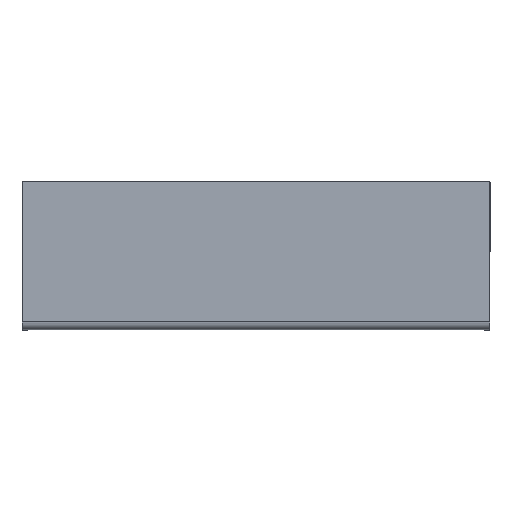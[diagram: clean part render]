
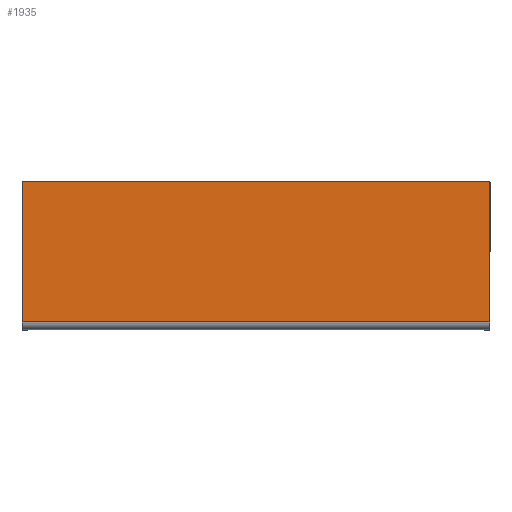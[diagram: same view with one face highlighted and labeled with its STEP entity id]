
A CAD part, top view. The second image highlights one B-rep face of the part: STEP entity #1935.
In plain terms, the highlighted planar face has unit normal (0, 0, 1).
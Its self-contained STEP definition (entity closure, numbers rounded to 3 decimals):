
#1549=CARTESIAN_POINT('',(6.5,-370.0,766.004));
#1550=VERTEX_POINT('',#1549);
#1582=CARTESIAN_POINT('',(6.5,16.5,766.004));
#1583=VERTEX_POINT('',#1582);
#1590=CARTESIAN_POINT('',(6.5,16.5,766.004));
#1591=DIRECTION('',(0.0,-1.0,0.0));
#1592=VECTOR('',#1591,386.5);
#1593=LINE('',#1590,#1592);
#1594=EDGE_CURVE('',#1583,#1550,#1593,.T.);
#1621=CARTESIAN_POINT('',(4.5,18.5,766.004));
#1622=VERTEX_POINT('',#1621);
#1629=CARTESIAN_POINT('',(4.5,16.5,766.004));
#1630=DIRECTION('',(0.,0.,-1.0));
#1631=DIRECTION('',(0.707,0.707,0.));
#1632=AXIS2_PLACEMENT_3D('',#1629,#1630,#1631);
#1633=CIRCLE('',#1632,2.);
#1634=EDGE_CURVE('',#1622,#1583,#1633,.T.);
#1644=CARTESIAN_POINT('',(-1289.5,18.5,766.004));
#1645=VERTEX_POINT('',#1644);
#1652=CARTESIAN_POINT('',(-1289.5,18.5,766.004));
#1653=DIRECTION('',(1.0,0.0,0.0));
#1654=VECTOR('',#1653,1294.0);
#1655=LINE('',#1652,#1654);
#1656=EDGE_CURVE('',#1645,#1622,#1655,.T.);
#1675=CARTESIAN_POINT('',(-1291.5,16.5,766.004));
#1676=VERTEX_POINT('',#1675);
#1683=CARTESIAN_POINT('',(-1289.5,16.5,766.004));
#1684=DIRECTION('',(0.,0.,-1.0));
#1685=DIRECTION('',(-0.707,0.707,0.));
#1686=AXIS2_PLACEMENT_3D('',#1683,#1684,#1685);
#1687=CIRCLE('',#1686,2.);
#1688=EDGE_CURVE('',#1676,#1645,#1687,.T.);
#1698=CARTESIAN_POINT('',(-1291.5,-370.,766.004));
#1699=VERTEX_POINT('',#1698);
#1706=CARTESIAN_POINT('',(-1291.5,-370.,766.004));
#1707=DIRECTION('',(0.0,1.0,0.0));
#1708=VECTOR('',#1707,386.5);
#1709=LINE('',#1706,#1708);
#1710=EDGE_CURVE('',#1699,#1676,#1709,.T.);
#1887=CARTESIAN_POINT('',(-1291.5,-370.,766.004));
#1888=DIRECTION('',(1.0,0.0,0.0));
#1889=VECTOR('',#1888,1298.);
#1890=LINE('',#1887,#1889);
#1891=EDGE_CURVE('',#1699,#1550,#1890,.T.);
#1922=CARTESIAN_POINT('',(-642.5,-240.275,766.004));
#1923=DIRECTION('',(0.0,0.0,1.0));
#1924=DIRECTION('',(1.0,0.0,0.0));
#1925=AXIS2_PLACEMENT_3D('',#1922,#1923,#1924);
#1926=PLANE('',#1925);
#1927=ORIENTED_EDGE('',*,*,#1710,.F.);
#1928=ORIENTED_EDGE('',*,*,#1891,.T.);
#1929=ORIENTED_EDGE('',*,*,#1594,.F.);
#1930=ORIENTED_EDGE('',*,*,#1634,.F.);
#1931=ORIENTED_EDGE('',*,*,#1656,.F.);
#1932=ORIENTED_EDGE('',*,*,#1688,.F.);
#1933=EDGE_LOOP('',(#1927,#1928,#1929,#1930,#1931,#1932));
#1934=FACE_OUTER_BOUND('',#1933,.T.);
#1935=ADVANCED_FACE('',(#1934),#1926,.T.);
